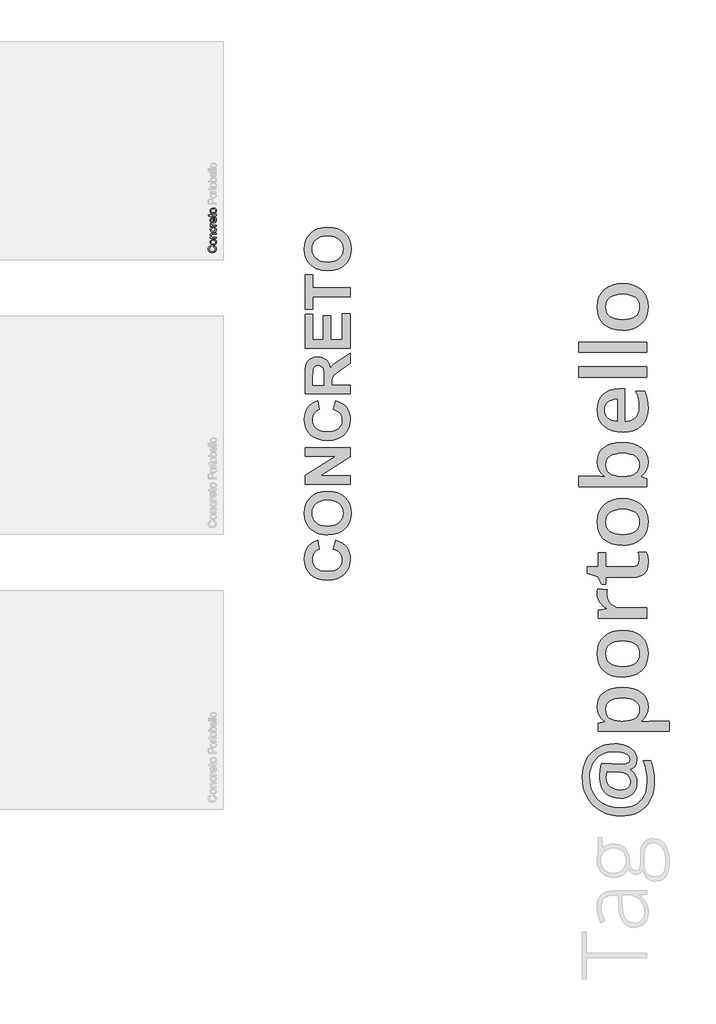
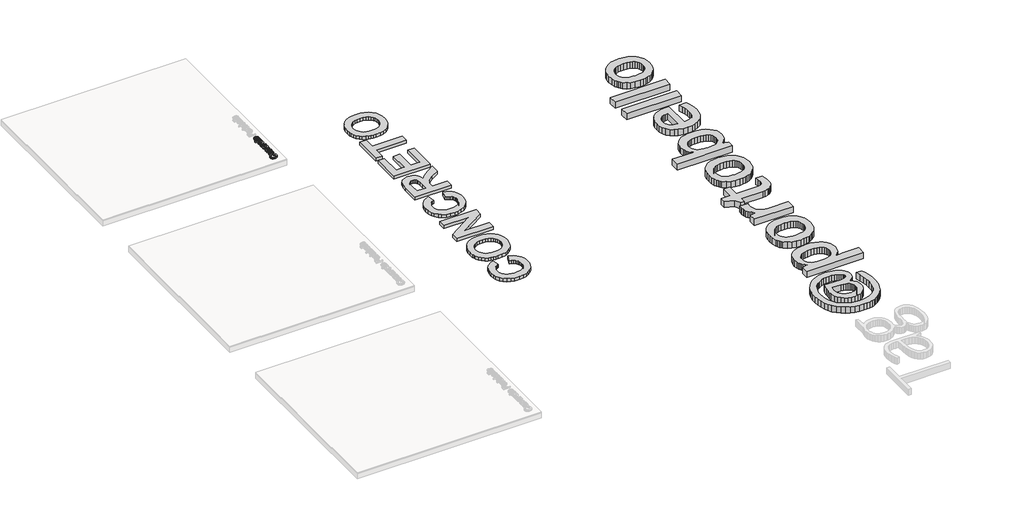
# One storey, part 8 of 12: 3 proxies.
"""IFC4 building model written with IfcOpenShell, lengths in millimetres."""

from ifc_helpers import new_model, si_unit, frame, origin, origin_with_axes, place, context, project, spatial, polyline, outline, extrude, element, save

model = new_model("IFC4")

# Units and contexts
model_context = context("Model", 3, world=origin())
ifc_project = project(units=[si_unit("LENGTHUNIT", "METRE", prefix="MILLI")], contexts=[model_context])

# Site, building, storey
site = spatial("IfcSite", under=ifc_project)
building = spatial("IfcBuilding", under=site)
storey = spatial("IfcBuildingStorey", under=building, Name="PORTOBELLO - SHOWROOM", Elevation=0.0)

# Proxies
placement = place(None, origin())
element("IfcBuildingElementProxy", 1, Name="10mm Arial", ObjectType="10mm Arial", at=placement, inside=storey, context=model_context, shape_type="SweptSolid", body=[
    extrude(outline(polyline([(-15805.3095564, -2897.3091823), (-15802.0721949, -2884.7521435), (-15787.4396885, -2890.5462849), (-15776.7496509, -2899.6391016), (-15770.2105484, -2911.5830037), (-15768.0308476, -2925.9304015), (-15769.6801852, -2940.4954628), (-15774.628198, -2952.0622859), (-15782.7032078, -2960.928242), (-15793.7335363, -2967.3907024), (-15820.588922, -2972.6514149), (-15835.2367567, -2971.1645585), (-15847.885766, -2966.7039893), (-15858.1343452, -2959.5026993), (-15865.58089, -2949.7936803), (-15870.1150356, -2938.2789738), (-15871.6264174, -2925.6606214), (-15869.6705115, -2911.8926377), (-15863.8027937, -2900.5097556), (-15854.3850146, -2891.8675944), (-15841.7789249, -2886.3217734), (-15838.786818, -2898.8788121), (-15854.2255991, -2909.179508), (-15859.0693787, -2926.1511307), (-15853.6983015, -2945.7960293), (-15839.2773273, -2956.8938028), (-15820.6134474, -2960.0943761), (-15798.9819861, -2956.3051916), (-15785.1618858, -2944.5084423), (-15780.5878863, -2927.1812003), (-15782.1452535, -2916.6996291), (-15786.8173548, -2907.9654974), (-15794.5551394, -2901.3712127), (-15805.3095564, -2897.3091823)])), frame((0.0, 0.0, 17.0), z_axis=(0.0, 0.0, 1.0), x_axis=(1.0, 0.0, 0.0)), (0.0, 0.0, 1.0), 20.0),
    extrude(outline(polyline([(-15806.4867788, -2872.1951048), (-15824.2738733, -2869.4789094), (-15836.7757297, -2861.3303232), (-15842.900965, -2851.2626192), (-15844.94271, -2839.2083525), (-15842.4564409, -2826.0167173), (-15834.9976334, -2815.4799638), (-15823.1548989, -2808.5729794), (-15807.5168484, -2806.2706512), (-15785.1741486, -2810.3418786), (-15772.5312707, -2822.1999416), (-15768.0308476, -2839.2083525), (-15770.5079197, -2852.5594033), (-15777.939136, -2863.083894), (-15790.0301909, -2869.9173021), (-15806.4867788, -2872.1951048)]), holes=[polyline([(-15806.5113043, -2859.638066), (-15795.1468163, -2858.1849321), (-15787.0503467, -2853.8255305), (-15782.2035014, -2847.2649682), (-15780.5878863, -2839.2083525), (-15782.2126985, -2831.188525), (-15787.0871349, -2824.6402255), (-15795.2909034, -2820.2808239), (-15806.9037117, -2818.82769), (-15817.9371059, -2820.2900209), (-15825.9232109, -2824.6770137), (-15830.7700562, -2831.2345103), (-15832.3856713, -2839.2083525), (-15830.7761875, -2847.2649682), (-15825.9477364, -2853.8255305), (-15817.8696609, -2858.1849321), (-15806.5113043, -2859.638066)])]), frame((0.0, 0.0, 17.0), z_axis=(0.0, 0.0, 1.0), x_axis=(1.0, 0.0, 0.0)), (0.0, 0.0, 1.0), 20.0),
    extrude(outline(polyline([(-15769.6004774, -2792.1439826), (-15843.3730802, -2792.1439826), (-15843.3730802, -2779.5869438), (-15833.0723843, -2779.5869438), (-15841.9751286, -2769.9852238), (-15844.94271, -2756.876362), (-15842.5514771, -2745.018299), (-15836.2729577, -2736.9248951), (-15827.0391196, -2733.160236), (-15814.8990138, -2732.4980485), (-15769.6004774, -2732.4980485), (-15769.6004774, -2745.0550872), (-15813.2067566, -2745.0550872), (-15824.3167928, -2746.5020897), (-15830.190642, -2751.6156495), (-15832.3856713, -2760.2363509), (-15827.4560525, -2773.8602474), (-15820.3130105, -2778.1552697), (-15808.7431217, -2779.5869438), (-15769.6004774, -2779.5869438), (-15769.6004774, -2792.1439826)])), frame((0.0, 0.0, 17.0), z_axis=(0.0, 0.0, 1.0), x_axis=(1.0, 0.0, 0.0)), (0.0, 0.0, 1.0), 20.0),
    extrude(outline(polyline([(-15796.2841848, -2668.1432248), (-15794.714555, -2655.586186), (-15783.5462707, -2659.0871963), (-15775.1064446, -2665.6661527), (-15769.7997468, -2674.703787), (-15768.0308476, -2685.5808313), (-15770.4987226, -2698.9380134), (-15777.9023478, -2709.3827964), (-15789.9167606, -2716.124234), (-15806.2169987, -2718.3713798), (-15827.0759078, -2714.5331444), (-15840.4790752, -2702.8344969), (-15844.94271, -2685.7525096), (-15843.4098684, -2675.1421797), (-15838.8113435, -2666.659434), (-15831.3923899, -2660.5740527), (-15821.3982623, -2657.1558158), (-15819.8286325, -2669.7128546), (-15829.2341488, -2675.5376529), (-15832.3856713, -2685.6544077), (-15830.8344355, -2693.7692714), (-15826.1807283, -2700.210272), (-15818.1731635, -2704.4133238), (-15806.5603552, -2705.8143411), (-15794.791197, -2704.4439806), (-15786.7560411, -2700.3328993), (-15782.129925, -2694.0083947), (-15780.5878863, -2685.9977643), (-15784.4383846, -2674.1642267), (-15796.2841848, -2668.1432248)])), frame((0.0, 0.0, 17.0), z_axis=(0.0, 0.0, 1.0), x_axis=(1.0, 0.0, 0.0)), (0.0, 0.0, 1.0), 20.0),
    extrude(outline(polyline([(-15769.6004774, -2644.5987771), (-15843.3730802, -2644.5987771), (-15843.3730802, -2633.6113681), (-15832.4592477, -2633.6113681), (-15842.5146889, -2625.8122698), (-15844.94271, -2617.9641206), (-15841.0676864, -2605.3580309), (-15829.8104973, -2609.5518857), (-15832.3856713, -2618.3810535), (-15829.9085992, -2625.4811761), (-15823.0414686, -2630.0061246), (-15808.3752397, -2632.0417383), (-15769.6004774, -2632.0417383), (-15769.6004774, -2644.5987771)])), frame((0.0, 0.0, 17.0), z_axis=(0.0, 0.0, 1.0), x_axis=(1.0, 0.0, 0.0)), (0.0, 0.0, 1.0), 20.0),
    extrude(outline(polyline([(-15791.5752953, -2545.8592496), (-15790.0056654, -2533.5474655), (-15780.7289078, -2537.9835092), (-15773.7943322, -2545.0621719), (-15769.4717187, -2554.6240381), (-15768.0308476, -2566.5096922), (-15770.5171167, -2581.2433661), (-15777.9759242, -2592.580263), (-15789.922892, -2599.8091442), (-15805.8736422, -2602.2187712), (-15822.3608869, -2599.7846187), (-15834.6910651, -2592.4821611), (-15842.3797988, -2581.2985484), (-15844.94271, -2567.2209308), (-15842.3859302, -2553.5817058), (-15834.7155906, -2542.6832017), (-15822.4099378, -2535.5370939), (-15805.9472185, -2533.155058), (-15802.5627042, -2533.2286344), (-15802.5627042, -2589.6617325), (-15793.1633192, -2587.488163), (-15786.2532691, -2582.4389826), (-15782.004232, -2575.1518534), (-15780.5878863, -2566.2644376), (-15783.2121112, -2553.9526535), (-15791.5752953, -2545.8592496)]), holes=[polyline([(-15815.119743, -2589.6617325), (-15815.119743, -2545.7120968), (-15826.4995593, -2550.7398174), (-15830.9141433, -2558.0606691), (-15832.3856713, -2567.2699817), (-15827.6890445, -2582.7332882), (-15822.1984057, -2587.5985276), (-15815.119743, -2589.6617325)])]), frame((0.0, 0.0, 17.0), z_axis=(0.0, 0.0, 1.0), x_axis=(1.0, 0.0, 0.0)), (0.0, 0.0, 1.0), 20.0),
    extrude(outline(polyline([(-15780.0728516, -2493.9143118), (-15769.2325954, -2492.344682), (-15768.0308476, -2501.7379356), (-15770.1155122, -2512.2593607), (-15775.5846912, -2517.5078105), (-15789.8339872, -2519.0283894), (-15830.8160414, -2519.0283894), (-15830.8160414, -2528.4461685), (-15843.3730802, -2528.4461685), (-15843.3730802, -2519.0283894), (-15861.3011961, -2519.0283894), (-15868.6833615, -2506.4713506), (-15843.3730802, -2506.4713506), (-15843.3730802, -2493.9143118), (-15830.8160414, -2493.9143118), (-15830.8160414, -2506.4713506), (-15790.2018692, -2506.4713506), (-15783.727146, -2505.809163), (-15781.4340149, -2503.6631847), (-15780.5878863, -2499.3834908), (-15780.0728516, -2493.9143118)])), frame((0.0, 0.0, 17.0), z_axis=(0.0, 0.0, 1.0), x_axis=(1.0, 0.0, 0.0)), (0.0, 0.0, 1.0), 20.0),
    extrude(outline(polyline([(-15806.4867788, -2484.4965328), (-15824.2738733, -2481.7803374), (-15836.7757297, -2473.6317512), (-15842.900965, -2463.5640472), (-15844.94271, -2451.5097805), (-15842.4564409, -2438.3181453), (-15834.9976334, -2427.7813918), (-15823.1548989, -2420.8744074), (-15807.5168484, -2418.5720792), (-15785.1741486, -2422.6433066), (-15772.5312707, -2434.5013696), (-15768.0308476, -2451.5097805), (-15770.5079197, -2464.8608313), (-15777.939136, -2475.385322), (-15790.0301909, -2482.2187301), (-15806.4867788, -2484.4965328)]), holes=[polyline([(-15806.5113043, -2471.939494), (-15795.1468163, -2470.4863601), (-15787.0503467, -2466.1269585), (-15782.2035014, -2459.5663962), (-15780.5878863, -2451.5097805), (-15782.2126985, -2443.489953), (-15787.0871349, -2436.9416535), (-15795.2909034, -2432.5822519), (-15806.9037117, -2431.129118), (-15817.9371059, -2432.5914489), (-15825.9232109, -2436.9784417), (-15830.7700562, -2443.5359383), (-15832.3856713, -2451.5097805), (-15830.7761875, -2459.5663962), (-15825.9477364, -2466.1269585), (-15817.8696609, -2470.4863601), (-15806.5113043, -2471.939494)])]), frame((0.0, 0.0, 17.0), z_axis=(0.0, 0.0, 1.0), x_axis=(1.0, 0.0, 0.0)), (0.0, 0.0, 1.0), 20.0),
])
element("IfcBuildingElementProxy", 2, Name="550mm Arial", ObjectType="550mm Arial", at=placement, inside=storey, context=model_context, shape_type="SweptSolid", body=[
    extrude(outline(polyline([(-14324.708148, -6638.94272), (-14289.080042, -6532.058402), (-14246.8195066, -6546.8193629), (-14210.3607159, -6565.772889), (-14179.7036701, -6588.9189804), (-14154.8483691, -6616.2576369), (-14135.6382441, -6647.6757812), (-14121.9167262, -6683.0603357), (-14113.6838154, -6722.4113005), (-14110.9395119, -6765.7286755), (-14115.6278784, -6819.249119), (-14129.6929778, -6867.7767565), (-14153.1348103, -6911.3115882), (-14185.9533757, -6949.8536141), (-14226.9048218, -6981.3935341), (-14274.7452962, -7003.9220484), (-14329.474799, -7017.439157), (-14391.09333, -7021.9448599), (-14456.0693925, -7017.4000148), (-14513.356186, -7003.7654796), (-14562.9537106, -6981.0412543), (-14604.8619662, -6949.2273388), (-14638.1676346, -6910.0024989), (-14661.9573978, -6865.0455004), (-14676.2312557, -6814.3563432), (-14680.9892083, -6757.9350273), (-14677.0662894, -6708.5984508), (-14665.2975327, -6664.1329044), (-14645.6829382, -6624.5383881), (-14618.2225059, -6589.814902), (-14597.685895, -6571.7485992), (-14573.0958912, -6556.1004149), (-14544.4524944, -6542.8703492), (-14511.7557047, -6532.058402), (-14493.9416517, -6638.94272), (-14513.517104, -6645.6795287), (-14530.909291, -6655.3128606), (-14546.1182127, -6667.8427157), (-14559.1438692, -6683.2690942), (-14569.58614, -6701.0527032), (-14577.0449049, -6720.6542503), (-14581.5201638, -6742.0737355), (-14583.0119168, -6765.3111586), (-14580.3024063, -6797.0728845), (-14572.1738747, -6825.6945356), (-14558.6263222, -6851.1761119), (-14539.6597487, -6873.5176135), (-14514.6304823, -6891.6926446), (-14482.8948512, -6904.6748097), (-14444.4528555, -6912.4641088), (-14399.304495, -6915.0605418), (-14351.5162103, -6912.5423932), (-14311.1388499, -6904.9879474), (-14278.1724139, -6892.3972043), (-14252.6169023, -6874.7701641), (-14233.498109, -6853.1071274), (-14219.8418281, -6828.4083952), (-14211.6480596, -6800.6739675), (-14208.9168034, -6769.9038442), (-14210.6608062, -6746.9969552), (-14215.8928144, -6725.7340389), (-14224.6128282, -6706.1150952), (-14236.8208474, -6688.1401243), (-14252.7778202, -6672.200548), (-14272.7446946, -6658.6877886), (-14296.7214705, -6647.6018459), (-14324.708148, -6638.94272)])), origin_with_axes(), (0.0, 0.0, 1.0), 50.0),
    extrude(outline(polyline([(-14388.0315396, -6460.8021899), (-14429.1047615, -6459.2278034), (-14466.7334692, -6454.5046438), (-14500.9176627, -6446.6327112), (-14531.6573421, -6435.6120056), (-14572.2086678, -6413.3966289), (-14608.4108595, -6384.327017), (-14638.0371606, -6350.2819958), (-14658.8608144, -6313.1403911), (-14668.5419867, -6286.401915), (-14675.4571099, -6257.6802338), (-14680.9892083, -6194.2872561), (-14676.1921135, -6136.4437734), (-14661.800829, -6084.6890784), (-14637.8153548, -6039.023171), (-14604.2356909, -5999.4460513), (-14562.1143277, -5967.4799161), (-14512.5037558, -5944.6469624), (-14455.403975, -5930.9471902), (-14390.8149854, -5926.3805994), (-14326.6652584, -5930.9123971), (-14269.9090592, -5944.5077901), (-14220.5463879, -5967.1667784), (-14178.5772444, -5998.8893621), (-14145.0889123, -6038.2055338), (-14121.1686751, -6083.6452862), (-14106.8165328, -6135.2086194), (-14102.0324854, -6192.8955332), (-14106.7947871, -6251.1913259), (-14121.0816924, -6303.1895724), (-14144.8932013, -6348.8902729), (-14178.2293137, -6388.2934272), (-14219.9157634, -6420.0160109), (-14268.7782843, -6442.6749992), (-14324.8168764, -6456.2703922), (-14388.0315396, -6460.8021899)]), holes=[polyline([(-14391.9283637, -6353.9178718), (-14347.5411017, -6351.0778873), (-14308.8773002, -6342.5579337), (-14275.936959, -6328.3580111), (-14248.7200782, -6308.4781194), (-14227.4093214, -6284.2229989), (-14212.1873522, -6256.8973897), (-14203.0541708, -6226.5012919), (-14200.0097769, -6193.0347055), (-14203.0324251, -6159.6029122), (-14212.1003696, -6129.3111936), (-14227.2136103, -6102.1595498), (-14248.3721474, -6078.1479808), (-14275.5759808, -6058.5116406), (-14308.8251105, -6044.4856833), (-14348.1195366, -6036.070109), (-14393.4592589, -6033.2649175), (-14438.1683568, -6035.9961737), (-14476.8234601, -6044.1899422), (-14509.4245689, -6057.8462231), (-14535.971683, -6076.9650163), (-14556.5517853, -6100.606909), (-14571.2518583, -6127.832488), (-14580.0719022, -6158.6417536), (-14583.0119168, -6193.0347055), (-14580.0371091, -6227.4624506), (-14571.112686, -6258.3760953), (-14556.2386476, -6285.7756397), (-14535.4149939, -6309.6610838), (-14508.5982334, -6329.0234286), (-14475.7448749, -6342.8536748), (-14436.8549183, -6351.1518226), (-14391.9283637, -6353.9178718)])]), origin_with_axes(), (0.0, 0.0, 1.0), 50.0),
    extrude(outline(polyline([(-14110.9395119, -5837.3103344), (-14672.0821818, -5837.3103344), (-14672.0821818, -5725.2766416), (-14294.368589, -5489.9363006), (-14672.0821818, -5489.9363006), (-14672.0821818, -5383.0519825), (-14110.9395119, -5383.0519825), (-14110.9395119, -5498.5649825), (-14483.0862131, -5730.4260163), (-14110.9395119, -5730.4260163), (-14110.9395119, -5837.3103344)])), origin_with_axes(), (0.0, 0.0, 1.0), 50.0),
    extrude(outline(polyline([(-14324.708148, -4910.9795776), (-14289.080042, -4804.0952595), (-14246.8195066, -4818.8562204), (-14210.3607159, -4837.8097465), (-14179.7036701, -4860.9558379), (-14154.8483691, -4888.2944944), (-14135.6382441, -4919.7126387), (-14121.9167262, -4955.0971933), (-14113.6838154, -4994.448158), (-14110.9395119, -5037.765533), (-14115.6278784, -5091.2859765), (-14129.6929778, -5139.8136141), (-14153.1348103, -5183.3484458), (-14185.9533757, -5221.8904716), (-14226.9048218, -5253.4303916), (-14274.7452962, -5275.958906), (-14329.474799, -5289.4760145), (-14391.09333, -5293.9817174), (-14456.0693925, -5289.4368723), (-14513.356186, -5275.8023371), (-14562.9537106, -5253.0781118), (-14604.8619662, -5221.2641963), (-14638.1676346, -5182.0393564), (-14661.9573978, -5137.0823579), (-14676.2312557, -5086.3932007), (-14680.9892083, -5029.9718848), (-14677.0662894, -4980.6353083), (-14665.2975327, -4936.1697619), (-14645.6829382, -4896.5752457), (-14618.2225059, -4861.8517595), (-14597.685895, -4843.7854567), (-14573.0958912, -4828.1372724), (-14544.4524944, -4814.9072067), (-14511.7557047, -4804.0952595), (-14493.9416517, -4910.9795776), (-14513.517104, -4917.7163862), (-14530.909291, -4927.3497181), (-14546.1182127, -4939.8795733), (-14559.1438692, -4955.3059517), (-14569.58614, -4973.0895608), (-14577.0449049, -4992.6911079), (-14581.5201638, -5014.110593), (-14583.0119168, -5037.3480162), (-14580.3024063, -5069.109742), (-14572.1738747, -5097.7313931), (-14558.6263222, -5123.2129694), (-14539.6597487, -5145.554471), (-14514.6304823, -5163.7295021), (-14482.8948512, -5176.7116672), (-14444.4528555, -5184.5009663), (-14399.304495, -5187.0973993), (-14351.5162103, -5184.5792507), (-14311.1388499, -5177.0248049), (-14278.1724139, -5164.4340619), (-14252.6169023, -5146.8070216), (-14233.498109, -5125.143985), (-14219.8418281, -5100.4452528), (-14211.6480596, -5072.710825), (-14208.9168034, -5041.9407017), (-14210.6608062, -5019.0338127), (-14215.8928144, -4997.7708964), (-14224.6128282, -4978.1519528), (-14236.8208474, -4960.1769818), (-14252.7778202, -4944.2374056), (-14272.7446946, -4930.7246461), (-14296.7214705, -4919.6387034), (-14324.708148, -4910.9795776)])), origin_with_axes(), (0.0, 0.0, 1.0), 50.0),
    extrude(outline(polyline([(-14110.9395119, -4715.0249944), (-14672.0821818, -4715.0249944), (-14672.0821818, -4478.988792), (-14668.289737, -4402.0961022), (-14656.9124023, -4349.558563), (-14647.848807, -4330.3875802), (-14635.8278005, -4313.2345956), (-14620.8493829, -4298.0996091), (-14602.9135541, -4284.9826208), (-14582.7944601, -4274.3881303), (-14561.2662466, -4266.8206371), (-14538.3289137, -4262.2801412), (-14513.9824613, -4260.7666425), (-14483.634204, -4262.954257), (-14456.051996, -4269.5171002), (-14431.2358371, -4280.4551723), (-14409.1857276, -4295.7684733), (-14390.4322616, -4315.4396065), (-14375.5060336, -4339.4511755), (-14364.4070435, -4367.8031803), (-14357.1352914, -4400.4956209), (-14334.798139, -4369.4949935), (-14310.3734023, -4344.4091883), (-14274.9888477, -4318.4535564), (-14219.772242, -4284.8434486), (-14110.9395119, -4216.23151), (-14110.9395119, -4341.0690534), (-14239.1171902, -4422.3456703), (-14315.1748462, -4486.1561649), (-14328.3788172, -4503.8658387), (-14336.6769649, -4522.6193046), (-14341.060892, -4547.5137479), (-14342.5222011, -4583.6463534), (-14342.5222011, -4608.1406763), (-14110.9395119, -4608.1406763), (-14110.9395119, -4715.0249944)]), holes=[polyline([(-14440.4994926, -4608.1406763), (-14440.4994926, -4520.0446173), (-14442.1173705, -4450.5106623), (-14446.9710041, -4413.090713), (-14455.7736514, -4394.0589025), (-14469.2385704, -4379.6893636), (-14487.0004338, -4370.6605614), (-14508.6939143, -4367.6509606), (-14532.7185308, -4371.6173709), (-14551.6285656, -4383.5166016), (-14564.9717088, -4402.6527913), (-14572.2956505, -4428.3300787), (-14574.1048903, -4515.1735872), (-14574.1048903, -4608.1406763), (-14440.4994926, -4608.1406763)])]), origin_with_axes(), (0.0, 0.0, 1.0), 50.0),
    extrude(outline(polyline([(-14110.9395119, -4153.8823244), (-14672.0821818, -4153.8823244), (-14672.0821818, -3735.2520786), (-14574.1048903, -3735.2520786), (-14574.1048903, -4046.9980063), (-14449.4065192, -4046.9980063), (-14449.4065192, -3753.0661316), (-14351.4292276, -3753.0661316), (-14351.4292276, -4046.9980063), (-14208.9168034, -4046.9980063), (-14208.9168034, -3726.3450521), (-14110.9395119, -3726.3450521), (-14110.9395119, -4153.8823244)])), origin_with_axes(), (0.0, 0.0, 1.0), 50.0),
    extrude(outline(polyline([(-14110.9395119, -3512.5764159), (-14574.1048903, -3512.5764159), (-14574.1048903, -3672.902893), (-14672.0821818, -3672.902893), (-14672.0821818, -3245.3656207), (-14574.1048903, -3245.3656207), (-14574.1048903, -3405.6920978), (-14110.9395119, -3405.6920978), (-14110.9395119, -3512.5764159)])), origin_with_axes(), (0.0, 0.0, 1.0), 50.0),
    extrude(outline(polyline([(-14388.0315396, -3191.9234616), (-14429.1047615, -3190.3490751), (-14466.7334692, -3185.6259155), (-14500.9176627, -3177.7539829), (-14531.6573421, -3166.7332773), (-14572.2086678, -3144.5179006), (-14608.4108595, -3115.4482887), (-14638.0371606, -3081.4032675), (-14658.8608144, -3044.2616628), (-14668.5419867, -3017.5231867), (-14675.4571099, -2988.8015056), (-14680.9892083, -2925.4085278), (-14676.1921135, -2867.5650452), (-14661.800829, -2815.8103501), (-14637.8153548, -2770.1444427), (-14604.2356909, -2730.567323), (-14562.1143277, -2698.6011878), (-14512.5037558, -2675.7682341), (-14455.403975, -2662.0684619), (-14390.8149854, -2657.5018712), (-14326.6652584, -2662.0336688), (-14269.9090592, -2675.6290618), (-14220.5463879, -2698.2880502), (-14178.5772444, -2730.0106338), (-14145.0889123, -2769.3268055), (-14121.1686751, -2814.7665579), (-14106.8165328, -2866.3298911), (-14102.0324854, -2924.016805), (-14106.7947871, -2982.3125976), (-14121.0816924, -3034.3108441), (-14144.8932013, -3080.0115446), (-14178.2293137, -3119.414699), (-14219.9157634, -3151.1372826), (-14268.7782843, -3173.796271), (-14324.8168764, -3187.391664), (-14388.0315396, -3191.9234616)]), holes=[polyline([(-14391.9283637, -3085.0391435), (-14347.5411017, -3082.199159), (-14308.8773002, -3073.6792054), (-14275.936959, -3059.4792828), (-14248.7200782, -3039.5993911), (-14227.4093214, -3015.3442706), (-14212.1873522, -2988.0186614), (-14203.0541708, -2957.6225637), (-14200.0097769, -2924.1559772), (-14203.0324251, -2890.7241839), (-14212.1003696, -2860.4324653), (-14227.2136103, -2833.2808215), (-14248.3721474, -2809.2692525), (-14275.5759808, -2789.6329123), (-14308.8251105, -2775.6069551), (-14348.1195366, -2767.1913807), (-14393.4592589, -2764.3861893), (-14438.1683568, -2767.1174454), (-14476.8234601, -2775.311214), (-14509.4245689, -2788.9674948), (-14535.971683, -2808.0862881), (-14556.5517853, -2831.7281807), (-14571.2518583, -2858.9537598), (-14580.0719022, -2889.7630253), (-14583.0119168, -2924.1559772), (-14580.0371091, -2958.5837223), (-14571.112686, -2989.497367), (-14556.2386476, -3016.8969114), (-14535.4149939, -3040.7823556), (-14508.5982334, -3060.1447003), (-14475.7448749, -3073.9749465), (-14436.8549183, -3082.2730943), (-14391.9283637, -3085.0391435)])]), origin_with_axes(), (0.0, 0.0, 1.0), 50.0),
])
element("IfcBuildingElementProxy", 3, Name="80mm OpenSans Bold", ObjectType="80mm OpenSans Bold", at=placement, inside=storey, context=model_context, shape_type="SweptSolid", body=[
    extrude(outline(polyline([(-10842.2999963, -9049.9050274), (-10804.1943816, -9051.4523873), (-10767.7563101, -9056.0944669), (-10732.9857817, -9063.8312662), (-10699.8827966, -9074.6627853), (-10669.4013094, -9088.3035888), (-10642.4952751, -9104.4682415), (-10619.1646938, -9123.1567432), (-10599.4095653, -9144.369094), (-10583.6880886, -9167.7146983), (-10572.4584624, -9192.8029603), (-10565.7206866, -9219.63388), (-10563.4747614, -9248.2074574), (-10569.1834677, -9288.8294097), (-10576.3193506, -9306.9770867), (-10586.3095866, -9323.6825641), (-10598.7335343, -9338.3599485), (-10613.1705522, -9350.4233463), (-10629.6206401, -9359.8727576), (-10648.0837982, -9366.7081822), (-10648.0837982, -9373.4384465), (-10611.0673446, -9403.6044526), (-10584.6270206, -9440.2603563), (-10568.7628262, -9482.6249663), (-10563.4747614, -9529.9170913), (-10567.0276799, -9572.5821596), (-10577.6864355, -9610.4398962), (-10595.4510282, -9643.4903012), (-10620.321458, -9671.7333746), (-10651.2611439, -9694.3428562), (-10687.2335052, -9710.4924859), (-10728.2385418, -9720.1822637), (-10774.2762536, -9723.4121897), (-10827.4198026, -9719.1306599), (-10875.3203555, -9706.2860707), (-10917.9779123, -9684.878422), (-10955.392473, -9654.9077139), (-10985.8364029, -9617.7260082), (-11007.5820671, -9574.6853672), (-11020.6294656, -9525.7857907), (-11024.9785985, -9471.0272788), (-11023.1458033, -9426.7096902), (-11017.6474177, -9377.8852283), (-11008.9040833, -9329.6616828), (-10997.3364416, -9287.1468437), (-10746.1533636, -9299.4055393), (-10733.4139347, -9299.4055393), (-10695.5561981, -9295.8000406), (-10668.5149576, -9284.9835444), (-10659.0505235, -9276.8711723), (-10652.2902134, -9266.9560508), (-10646.8819653, -9241.7175597), (-10650.3447463, -9220.9634076), (-10660.7330895, -9202.4476694), (-10678.0469949, -9186.1703449), (-10702.2864624, -9172.1314342), (-10731.8891092, -9160.8266934), (-10765.2925526, -9152.7518786), (-10802.4967926, -9147.9069897), (-10843.5018292, -9146.2920267), (-10888.5930977, -9148.7107154), (-10930.8450359, -9155.9667816), (-10970.2576438, -9168.0602253), (-11006.8309216, -9184.9910464), (-11039.971464, -9206.3836722), (-11069.0858662, -9231.8625298), (-11094.1741282, -9261.4276194), (-11115.23625, -9295.0789409), (-11131.9041701, -9332.0803715), (-11143.8098274, -9371.6957888), (-11150.9532217, -9413.9251927), (-11153.3343532, -9458.7685831), (-11150.3447938, -9515.7429744), (-11141.3761157, -9568.8865234), (-11126.4283189, -9618.1992299), (-11105.5014034, -9663.6810941), (-11079.0235221, -9704.6711078), (-11047.4228281, -9740.5082628), (-11010.6993212, -9771.1925593), (-10968.8530016, -9796.7239971), (-10922.6650606, -9816.8096296), (-10872.9166896, -9831.15651), (-10819.6078887, -9839.7646382), (-10762.7386577, -9842.6340143), (-10688.5630328, -9837.2783464), (-10623.4762694, -9821.2113427), (-10594.3412106, -9809.1610899), (-10567.4783672, -9794.4330032), (-10542.8877392, -9777.0270825), (-10520.5693265, -9756.9433278), (-10500.7109155, -9734.3582585), (-10483.5002927, -9709.4483936), (-10468.937458, -9682.2137331), (-10457.0224114, -9652.6542772), (-10441.1356827, -9586.5609786), (-10435.8401064, -9511.1684979), (-10438.9348262, -9449.454378), (-10448.2189854, -9386.418242), (-10463.6925841, -9322.0600897), (-10485.3556223, -9256.3799212), (-10395.2181541, -9256.3799212), (-10374.6067197, -9315.6002378), (-10359.8842666, -9377.4044951), (-10351.0507947, -9441.7926932), (-10348.106304, -9508.7648321), (-10349.8020152, -9558.3798747), (-10354.8891485, -9605.1893887), (-10363.3677041, -9649.1933739), (-10375.237682, -9690.3918305), (-10390.4990821, -9728.7847584), (-10409.1519044, -9764.3721575), (-10431.1961489, -9797.154028), (-10456.6318157, -9827.1303697), (-10485.1021106, -9853.9180986), (-10516.2502395, -9877.1341302), (-10550.0762023, -9896.7784647), (-10586.579999, -9912.851102), (-10625.7616297, -9925.3520421), (-10667.6210944, -9934.281285), (-10712.158393, -9939.6388308), (-10759.3735256, -9941.4246794), (-10828.4413606, -9937.5637912), (-10893.5882157, -9925.9811265), (-10954.814091, -9906.6766854), (-11012.1189864, -9879.6504679), (-11064.218443, -9845.7738027), (-11109.8280019, -9805.9180189), (-11148.9476631, -9760.0831163), (-11181.5774265, -9708.269095), (-11207.2891393, -9651.6477421), (-11225.6546485, -9591.3908446), (-11236.673954, -9527.4984026), (-11240.3470558, -9459.970416), (-11237.2823819, -9401.749123), (-11228.0883601, -9346.7878018), (-11212.7649905, -9295.0864523), (-11191.3122731, -9246.6450746), (-11164.1959181, -9202.4626923), (-11131.8816357, -9163.5383289), (-11094.3694261, -9129.8719846), (-11051.6592891, -9101.4636592), (-11004.5925078, -9078.9067578), (-10954.0103652, -9062.7946853), (-10899.9128614, -9053.1274419), (-10842.2999963, -9049.9050274)]), holes=[polyline([(-10772.353321, -9618.1316268), (-10742.945972, -9616.542954), (-10717.4596029, -9611.7769353), (-10695.8942136, -9603.8335709), (-10678.2498042, -9592.7128608), (-10664.5263747, -9578.4148049), (-10654.723925, -9560.9394033), (-10648.8424552, -9540.2866559), (-10646.8819653, -9516.4565627), (-10649.3457227, -9491.1730029), (-10656.7369951, -9468.9240712), (-10669.0557824, -9449.7097675), (-10686.3020847, -9433.530092), (-10708.4759019, -9420.3850445), (-10735.577234, -9410.2746252), (-10767.606081, -9403.1988339), (-10804.5624429, -9399.1576708), (-10933.1585642, -9392.4274065), (-10940.0090118, -9428.7227604), (-10942.2924943, -9467.42178), (-10939.4306297, -9501.0355442), (-10930.8450359, -9530.7283285), (-10916.5357128, -9556.500133), (-10896.5026605, -9578.3509575), (-10871.5721391, -9595.7550004), (-10842.5704087, -9608.1864595), (-10809.4974693, -9615.645335), (-10772.353321, -9618.1316268)])]), origin_with_axes(), (0.0, 0.0, 1.0), 100.0),
    extrude(outline(polyline([(-10425.0236102, -8591.2855893), (-10430.2215376, -8644.8422683), (-10445.8153196, -8692.0592787), (-10471.8049562, -8732.9366205), (-10508.1904475, -8767.4742937), (-10508.1904475, -8775.1660244), (-10414.207114, -8767.4742937), (-10163.5047692, -8767.4742937), (-10163.5047692, -8896.3107816), (-11040.3620597, -8896.3107816), (-11040.3620597, -8791.9916851), (-10963.2043869, -8773.9641914), (-10963.2043869, -8767.4742937), (-10984.8937152, -8751.6439009), (-11003.6911331, -8733.9581785), (-11019.5966405, -8714.4171265), (-11032.6102375, -8693.020745), (-11042.731924, -8669.769034), (-11049.9617001, -8644.6619933), (-11055.745521, -8588.8819234), (-11050.5851509, -8536.07639), (-11035.1040407, -8489.4302502), (-11009.3021905, -8448.9435041), (-10973.1796001, -8414.6161516), (-10927.7428047, -8387.2744529), (-10873.9983393, -8367.7446682), (-10811.9462039, -8356.0267973), (-10741.5863985, -8352.1208403), (-10671.0538296, -8356.0944004), (-10608.7237704, -8368.0150806), (-10554.5962207, -8387.8828808), (-10508.6711807, -8415.6978012), (-10472.0753686, -8450.5133983), (-10445.9355029, -8491.3832287), (-10430.2515834, -8538.3072923), (-10425.0236102, -8591.2855893)]), holes=[polyline([(-10948.0612923, -8622.7736115), (-10945.2670308, -8657.859621), (-10936.8842462, -8687.8829093), (-10922.9129387, -8712.8434766), (-10903.3531081, -8732.7413227), (-10877.6639296, -8747.9369975), (-10845.3045786, -8758.791051), (-10806.2750548, -8765.303483), (-10760.5753585, -8767.4742937), (-10741.5863985, -8767.4742937), (-10690.2380875, -8765.3260174), (-10646.5214154, -8758.8811884), (-10610.4363823, -8748.1398068), (-10581.9829882, -8733.1018725), (-10560.4251104, -8713.1814921), (-10545.0266262, -8687.7927719), (-10535.7875357, -8656.9357119), (-10532.7078389, -8620.6103122), (-10536.1180398, -8589.6856492), (-10546.3486424, -8562.5317369), (-10563.3996468, -8539.1485754), (-10587.271053, -8519.5361646), (-10617.437059, -8504.0250086), (-10653.371863, -8492.9456115), (-10695.0754649, -8486.2979732), (-10742.5478648, -8484.0820938), (-10790.1780053, -8486.2829503), (-10831.6337292, -8492.8855198), (-10866.9150366, -8503.8898024), (-10896.0219273, -8519.295798), (-10918.7891495, -8538.9683004), (-10935.0514511, -8562.7721035), (-10944.808832, -8590.7072072), (-10948.0612923, -8622.7736115)])]), origin_with_axes(), (0.0, 0.0, 1.0), 100.0),
    extrude(outline(polyline([(-10741.5863985, -7644.0008903), (-10671.0538296, -7648.8082219), (-10608.7237704, -7663.2302168), (-10554.5962207, -7687.266875), (-10508.6711807, -7720.9181964), (-10489.0662814, -7741.0902107), (-10472.0753686, -7763.1476003), (-10457.6984424, -7787.0903653), (-10445.9355029, -7812.9185056), (-10430.2515834, -7870.2309125), (-10425.0236102, -7935.0848209), (-10427.4347875, -7976.7358426), (-10434.6683193, -8015.8780382), (-10446.7242057, -8052.5114075), (-10463.6024466, -8086.6359507), (-10484.9800495, -8117.6131939), (-10510.5340217, -8144.8046635), (-10540.2643633, -8168.2103594), (-10574.1710743, -8187.8302817), (-10611.6307037, -8203.3414376), (-10652.0198009, -8214.4208348), (-10695.3383659, -8221.068473), (-10741.5863985, -8223.2843525), (-10811.5556082, -8218.5145781), (-10873.3974228, -8204.205255), (-10927.1118424, -8180.3563833), (-10972.6988669, -8146.9679627), (-10992.1629265, -8126.9104982), (-11009.0317781, -8104.8962995), (-11023.3054217, -8080.9253665), (-11034.9838574, -8054.9976994), (-11050.5551051, -7997.2721625), (-11055.745521, -7931.7196887), (-11050.4274103, -7868.8262703), (-11034.4730785, -7812.8283682), (-11007.8825253, -7763.7259824), (-10970.655751, -7721.5191129), (-10924.4302527, -7687.6048905), (-10870.8435279, -7663.3804459), (-10809.8955765, -7648.8457792), (-10741.5863985, -7644.0008903)]), holes=[polyline([(-10741.5863985, -8090.6019993), (-10692.6304861, -8088.1382418), (-10650.2020287, -8080.7469694), (-10614.3010262, -8068.4281821), (-10584.9274788, -8051.1818799), (-10562.0813863, -8029.0080627), (-10545.7627489, -8001.9067306), (-10535.9715664, -7969.8778836), (-10532.7078389, -7932.9215216), (-10535.9715664, -7896.3031752), (-10545.7627489, -7864.5672749), (-10562.0813863, -7837.7138209), (-10584.9274788, -7815.742813), (-10614.3010262, -7798.6542513), (-10650.2020287, -7786.4481358), (-10692.6304861, -7779.1244665), (-10741.5863985, -7776.6832434), (-10789.9789517, -7779.1394894), (-10831.9191645, -7786.5082275), (-10867.4070369, -7798.7894575), (-10896.4425688, -7815.9831796), (-10919.0257604, -7838.0893936), (-10935.1566114, -7865.1080997), (-10944.8351221, -7897.0392978), (-10948.0612923, -7933.882988), (-10944.726206, -7972.2740379), (-10934.720947, -8005.0014503), (-10918.0455154, -8032.0652252), (-10894.6999111, -8053.4653624), (-10865.1197987, -8069.7126411), (-10829.7408424, -8081.3178401), (-10788.5630423, -8088.2809595), (-10741.5863985, -8090.6019993)])]), origin_with_axes(), (0.0, 0.0, 1.0), 100.0),
    extrude(outline(polyline([(-11055.745521, -7193.3135493), (-11054.3634131, -7158.6406699), (-11050.2170896, -7130.5778715), (-10930.0337987, -7142.8365671), (-10935.0814969, -7170.2383575), (-10936.7640629, -7198.6016141), (-10933.6242745, -7234.6566014), (-10924.204909, -7267.10609), (-10908.5059667, -7295.9500798), (-10886.5274473, -7321.1885709), (-10859.5312756, -7341.6948449), (-10828.7793761, -7356.3421835), (-10794.2717487, -7365.1305866), (-10756.0083934, -7368.0600543), (-10440.4070715, -7368.0600543), (-10440.4070715, -7496.8965422), (-11040.3620597, -7496.8965422), (-11040.3620597, -7395.9425778), (-10938.2062624, -7378.8765505), (-10938.2062624, -7372.3866528), (-10963.8503721, -7356.5900615), (-10986.7002203, -7338.5250106), (-11006.755807, -7318.1915), (-11024.0171322, -7295.5895299), (-11037.8983023, -7271.3951311), (-11047.8134238, -7246.2843348), (-11053.7624967, -7220.2571409), (-11055.745521, -7193.3135493)])), origin_with_axes(), (0.0, 0.0, 1.0), 100.0),
    extrude(outline(polyline([(-10532.7078389, -6774.3545972), (-10536.3734293, -6726.4615558), (-10547.3702004, -6678.4483311), (-10447.6180689, -6678.4483311), (-10438.784597, -6703.206089), (-10431.5135079, -6734.213378), (-10426.6460847, -6768.9463491), (-10425.0236102, -6804.8811531), (-10428.0582383, -6848.2598097), (-10437.1621226, -6885.8546453), (-10452.3352631, -6917.6656602), (-10473.5776598, -6943.6928541), (-10500.8893126, -6963.9362272), (-10534.2702217, -6978.3957794), (-10573.7203869, -6987.0715107), (-10619.2398083, -6989.9634211), (-10948.0612923, -6989.9634211), (-10948.0612923, -7073.6109916), (-11002.1437732, -7073.6109916), (-11046.8519574, -6983.9542566), (-11178.8132109, -6939.9671721), (-11178.8132109, -6860.4058335), (-11040.3620597, -6860.4058335), (-11040.3620597, -6684.6978622), (-10948.0612923, -6684.6978622), (-10948.0612923, -6860.4058335), (-10623.5664068, -6860.4058335), (-10601.8808343, -6858.9260767), (-10583.2148669, -6854.4868064), (-10567.5685047, -6847.0880226), (-10554.9417477, -6836.7297252), (-10545.2144126, -6823.9527391), (-10538.2663161, -6809.297889), (-10532.7078389, -6774.3545972)])), origin_with_axes(), (0.0, 0.0, 1.0), 100.0),
    extrude(outline(polyline([(-10741.5863985, -6013.3539991), (-10671.0538296, -6018.1613308), (-10608.7237704, -6032.5833257), (-10554.5962207, -6056.6199839), (-10508.6711807, -6090.2713053), (-10489.0662814, -6110.4433195), (-10472.0753686, -6132.5007092), (-10457.6984424, -6156.4434741), (-10445.9355029, -6182.2716145), (-10430.2515834, -6239.5840214), (-10425.0236102, -6304.4379297), (-10427.4347875, -6346.0889515), (-10434.6683193, -6385.231147), (-10446.7242057, -6421.8645164), (-10463.6024466, -6455.9890596), (-10484.9800495, -6486.9663028), (-10510.5340217, -6514.1577724), (-10540.2643633, -6537.5634683), (-10574.1710743, -6557.1833905), (-10611.6307037, -6572.6945465), (-10652.0198009, -6583.7739436), (-10695.3383659, -6590.4215819), (-10741.5863985, -6592.6374613), (-10811.5556082, -6587.867687), (-10873.3974228, -6573.5583639), (-10927.1118424, -6549.7094921), (-10972.6988669, -6516.3210716), (-10992.1629265, -6496.2636071), (-11009.0317781, -6474.2494083), (-11023.3054217, -6450.2784754), (-11034.9838574, -6424.3508082), (-11050.5551051, -6366.6252713), (-11055.745521, -6301.0727976), (-11050.4274103, -6238.1793792), (-11034.4730785, -6182.181477), (-11007.8825253, -6133.0790912), (-10970.655751, -6090.8722218), (-10924.4302527, -6056.9579994), (-10870.8435279, -6032.7335548), (-10809.8955765, -6018.198888), (-10741.5863985, -6013.3539991)]), holes=[polyline([(-10741.5863985, -6459.9551082), (-10692.6304861, -6457.4913507), (-10650.2020287, -6450.1000783), (-10614.3010262, -6437.781291), (-10584.9274788, -6420.5349887), (-10562.0813863, -6398.3611716), (-10545.7627489, -6371.2598395), (-10535.9715664, -6339.2309924), (-10532.7078389, -6302.2746305), (-10535.9715664, -6265.656284), (-10545.7627489, -6233.9203838), (-10562.0813863, -6207.0669297), (-10584.9274788, -6185.0959218), (-10614.3010262, -6168.0073602), (-10650.2020287, -6155.8012447), (-10692.6304861, -6148.4775754), (-10741.5863985, -6146.0363523), (-10789.9789517, -6148.4925983), (-10831.9191645, -6155.8613363), (-10867.4070369, -6168.1425664), (-10896.4425688, -6185.3362884), (-10919.0257604, -6207.4425025), (-10935.1566114, -6234.4612086), (-10944.8351221, -6266.3924067), (-10948.0612923, -6303.2360968), (-10944.726206, -6341.6271468), (-10934.720947, -6374.3545592), (-10918.0455154, -6401.418334), (-10894.6999111, -6422.8184713), (-10865.1197987, -6439.0657499), (-10829.7408424, -6450.6709489), (-10788.5630423, -6457.6340684), (-10741.5863985, -6459.9551082)])]), origin_with_axes(), (0.0, 0.0, 1.0), 100.0),
    extrude(outline(polyline([(-11055.745521, -5558.3400597), (-11050.5851509, -5505.5345263), (-11035.1040407, -5458.8883865), (-11009.3021905, -5418.4016404), (-10973.1796001, -5384.0742879), (-10927.7428047, -5356.7325892), (-10873.9983393, -5337.2028044), (-10811.9462039, -5325.4849336), (-10741.5863985, -5321.5789766), (-10670.8585318, -5325.5300023), (-10608.4233122, -5337.3830794), (-10554.2807396, -5357.1382078), (-10508.4308141, -5384.7953876), (-10471.9401624, -5419.48329), (-10445.8754112, -5460.330586), (-10430.2365605, -5507.3372756), (-10425.0236102, -5560.503359), (-10430.2215376, -5614.1651984), (-10445.8153196, -5661.4573233), (-10471.8049562, -5702.3797339), (-10508.1904475, -5736.93243), (-10508.1904475, -5745.585627), (-10440.4070715, -5769.141552), (-10440.4070715, -5865.7689179), (-11286.4974395, -5865.7689179), (-11286.4974395, -5736.93243), (-11086.5124434, -5736.93243), (-11020.5318167, -5739.0957293), (-10964.886953, -5742.2204948), (-10964.886953, -5736.93243), (-10986.1819299, -5720.8917164), (-11004.6375765, -5703.0557649), (-11020.2538929, -5683.4245755), (-11033.030879, -5661.9981481), (-11042.9685348, -5638.7764829), (-11050.0668605, -5613.7595797), (-11055.745521, -5558.3400597)]), holes=[polyline([(-10948.0612923, -5592.2317478), (-10945.2144506, -5627.775956), (-10936.6739255, -5657.9720079), (-10922.439717, -5682.8199033), (-10902.511825, -5702.3196422), (-10875.9137605, -5717.102187), (-10841.669034, -5727.7984999), (-10799.7776457, -5734.4085809), (-10750.2395954, -5736.93243), (-10741.5863985, -5736.93243), (-10690.2380875, -5734.7841537), (-10646.5214154, -5728.3393247), (-10610.4363823, -5717.5979431), (-10581.9829882, -5702.5600088), (-10560.4251104, -5682.6396284), (-10545.0266262, -5657.2509081), (-10535.7875357, -5626.3938482), (-10532.7078389, -5590.0684485), (-10536.0804825, -5558.5578919), (-10546.1984133, -5531.0884985), (-10563.0616313, -5507.6602682), (-10586.6701365, -5488.2732011), (-10616.6483561, -5473.0775263), (-10652.6207174, -5462.2234728), (-10694.5872203, -5455.7110407), (-10742.5478648, -5453.54023), (-10790.7150744, -5455.707285), (-10832.4599893, -5462.2084499), (-10867.7826097, -5473.0437247), (-10896.6829354, -5488.2131095), (-10919.1609666, -5507.7166042), (-10935.2167031, -5531.5542088), (-10944.850145, -5559.7259233), (-10948.0612923, -5592.2317478)])]), origin_with_axes(), (0.0, 0.0, 1.0), 100.0),
    extrude(outline(polyline([(-10425.0236102, -4892.7649946), (-10430.1990032, -4959.5793929), (-10445.7251821, -5018.6870377), (-10457.3698163, -5045.3508275), (-10471.6021469, -5070.0879289), (-10488.4221741, -5092.898342), (-10507.8298977, -5113.7820666), (-10553.1465098, -5148.6427324), (-10606.2900588, -5173.543208), (-10667.2605445, -5188.4834934), (-10736.0579671, -5193.4635885), (-10806.590536, -5188.8440433), (-10869.1609618, -5174.9854075), (-10923.7692446, -5151.8876813), (-10970.4153844, -5119.5508646), (-11007.7473191, -5079.1317216), (-11034.4129868, -5031.7870164), (-11050.4123874, -4977.5167491), (-11055.745521, -4916.3209197), (-11051.2536705, -4859.6019178), (-11037.778119, -4809.14747), (-11015.3188665, -4764.9575762), (-10983.875913, -4727.0322365), (-10944.5609539, -4696.5883066), (-10898.4856848, -4674.8426424), (-10845.6501055, -4661.7952439), (-10786.0542161, -4657.446111), (-10717.3093737, -4657.446111), (-10717.3093737, -5060.7812353), (-10675.4104739, -5056.8151867), (-10638.6494098, -5047.5610733), (-10607.0261814, -5033.0188951), (-10580.5407887, -5013.1886521), (-10559.6138731, -4988.4308942), (-10544.6660763, -4959.1061712), (-10535.6973983, -4925.2144832), (-10532.7078389, -4886.7558301), (-10535.231688, -4834.9868775), (-10542.8032353, -4786.8835153), (-10556.2637639, -4738.9003364), (-10576.4545568, -4687.4919338), (-10468.5299615, -4687.4919338), (-10448.2189854, -4734.8741962), (-10434.8786401, -4782.7972834), (-10427.4873677, -4834.3859611), (-10425.0236102, -4892.7649946)]), holes=[polyline([(-10963.4447535, -4916.5612862), (-10960.9885075, -4945.5780395), (-10953.6197695, -4971.5751877), (-10941.3385395, -4994.5527306), (-10924.1448174, -5014.5106683), (-10902.2489241, -5031.1034739), (-10875.8611803, -5043.9856204), (-10844.981586, -5053.1571078), (-10809.6101412, -5058.6179361), (-10809.6101412, -4784.1192996), (-10845.1768838, -4786.8309351), (-10876.1616385, -4793.7640087), (-10902.5644052, -4804.9185204), (-10924.385184, -4820.2944702), (-10941.4737457, -4839.4261478), (-10953.6798611, -4861.847843), (-10961.0035304, -4887.5595558), (-10963.4447535, -4916.5612862)])]), origin_with_axes(), (0.0, 0.0, 1.0), 100.0),
    extrude(outline(polyline([(-10440.4070715, -4383.6685743), (-10440.4070715, -4512.5050622), (-11286.4974395, -4512.5050622), (-11286.4974395, -4383.6685743), (-10440.4070715, -4383.6685743)])), origin_with_axes(), (0.0, 0.0, 1.0), 100.0),
    extrude(outline(polyline([(-10440.4070715, -4075.9993496), (-10440.4070715, -4204.8358374), (-11286.4974395, -4204.8358374), (-11286.4974395, -4075.9993496), (-10440.4070715, -4075.9993496)])), origin_with_axes(), (0.0, 0.0, 1.0), 100.0),
    extrude(outline(polyline([(-10741.5863985, -3352.0152051), (-10671.0538296, -3356.8225367), (-10608.7237704, -3371.2445316), (-10554.5962207, -3395.2811898), (-10508.6711807, -3428.9325113), (-10489.0662814, -3449.1045255), (-10472.0753686, -3471.1619151), (-10457.6984424, -3495.1046801), (-10445.9355029, -3520.9328205), (-10430.2515834, -3578.2452273), (-10425.0236102, -3643.0991357), (-10427.4347875, -3684.7501575), (-10434.6683193, -3723.892353), (-10446.7242057, -3760.5257224), (-10463.6024466, -3794.6502655), (-10484.9800495, -3825.6275088), (-10510.5340217, -3852.8189783), (-10540.2643633, -3876.2246743), (-10574.1710743, -3895.8445965), (-10611.6307037, -3911.3557525), (-10652.0198009, -3922.4351496), (-10695.3383659, -3929.0827879), (-10741.5863985, -3931.2986673), (-10811.5556082, -3926.528893), (-10873.3974228, -3912.2195699), (-10927.1118424, -3888.3706981), (-10972.6988669, -3854.9822776), (-10992.1629265, -3834.924813), (-11009.0317781, -3812.9106143), (-11023.3054217, -3788.9396814), (-11034.9838574, -3763.0120142), (-11050.5551051, -3705.2864773), (-11055.745521, -3639.7340036), (-11050.4274103, -3576.8405851), (-11034.4730785, -3520.842683), (-11007.8825253, -3471.7402972), (-10970.655751, -3429.5334277), (-10924.4302527, -3395.6192053), (-10870.8435279, -3371.3947608), (-10809.8955765, -3356.860094), (-10741.5863985, -3352.0152051)]), holes=[polyline([(-10741.5863985, -3798.6163141), (-10692.6304861, -3796.1525567), (-10650.2020287, -3788.7612843), (-10614.3010262, -3776.442497), (-10584.9274788, -3759.1961947), (-10562.0813863, -3737.0223775), (-10545.7627489, -3709.9210454), (-10535.9715664, -3677.8921984), (-10532.7078389, -3640.9358365), (-10535.9715664, -3604.31749), (-10545.7627489, -3572.5815898), (-10562.0813863, -3545.7281357), (-10584.9274788, -3523.7571278), (-10614.3010262, -3506.6685661), (-10650.2020287, -3494.4624507), (-10692.6304861, -3487.1387814), (-10741.5863985, -3484.6975583), (-10789.9789517, -3487.1538043), (-10831.9191645, -3494.5225423), (-10867.4070369, -3506.8037723), (-10896.4425688, -3523.9974944), (-10919.0257604, -3546.1037085), (-10935.1566114, -3573.1224146), (-10944.8351221, -3605.0536127), (-10948.0612923, -3641.8973028), (-10944.726206, -3680.2883528), (-10934.720947, -3713.0157652), (-10918.0455154, -3740.07954), (-10894.6999111, -3761.4796772), (-10865.1197987, -3777.7269559), (-10829.7408424, -3789.3321549), (-10788.5630423, -3796.2952743), (-10741.5863985, -3798.6163141)])]), origin_with_axes(), (0.0, 0.0, 1.0), 100.0),
])

save(model, "model.ifc")
